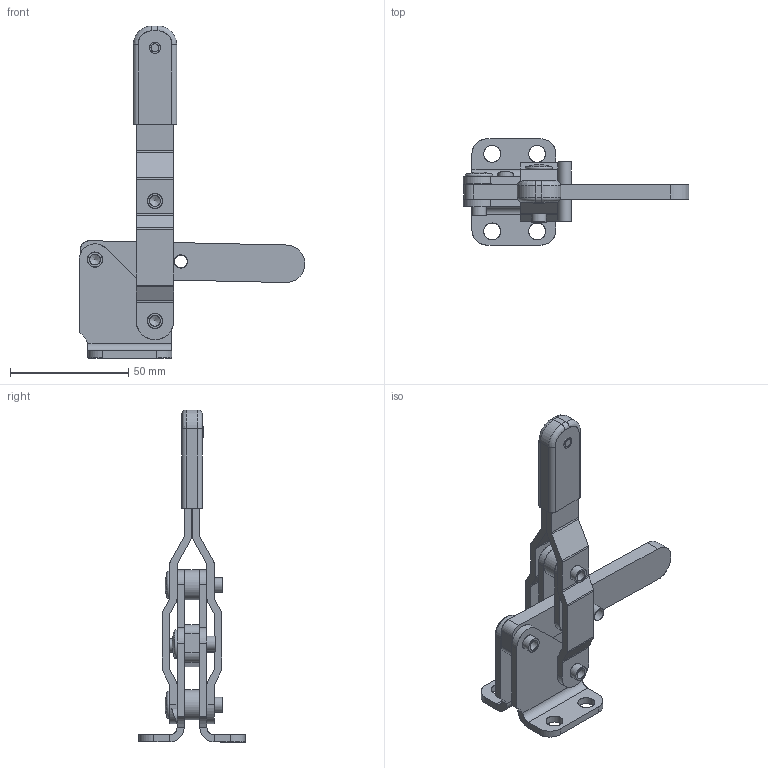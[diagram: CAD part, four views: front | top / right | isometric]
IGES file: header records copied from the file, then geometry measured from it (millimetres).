
Global section: file name: E:\vst-375.igs; native system: Unigraphics Version X V1.0; preprocessor: Unigraphics NX IGES V1.0; date: 20040106.082542; units: inch
Bounding box: 95.56 x 45.01 x 140.65 mm (x, y, z)
Surface area: 69239.6 mm2 (no closed solid volume)
Topology: 0 solids, 0 shells, 830 faces, 10028 edges, 9920 vertices
Faces by surface type: extrusion 574, revolution 256
